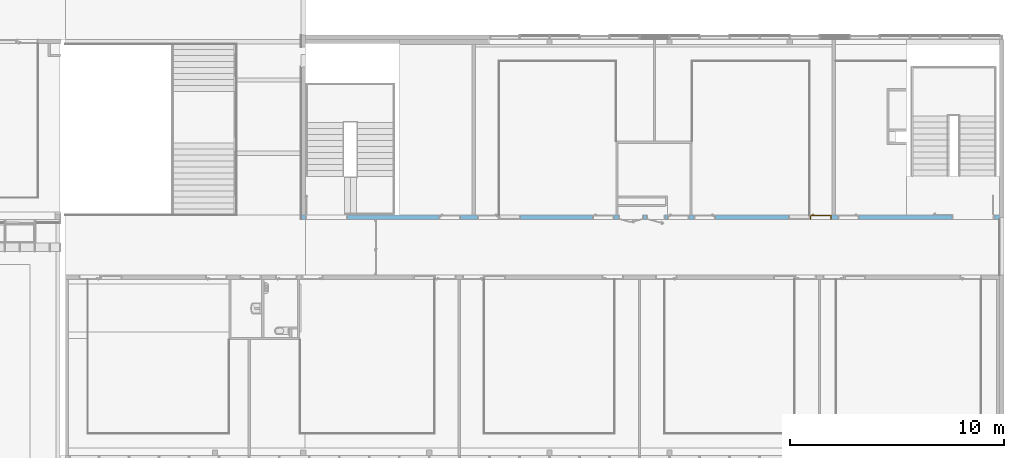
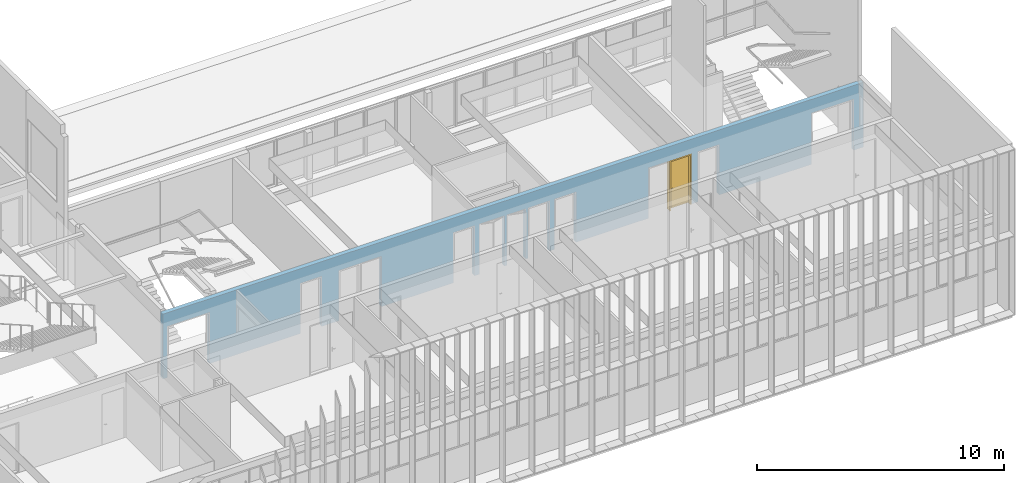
# One storey, part 81 of 106: 1 door, 13 openings, plus 1 element that does not belong to this part.
"""IFC2X3 building model written with IfcOpenShell, lengths in centimetres."""

from ifc_helpers import new_model, entity, si_unit, converted_unit, derived_unit, direction, frame, frame_2d, origin, place, context, subcontext, project, spatial, polyline, rectangle, extrude, clip, bounded_halfspace, faceted_brep, source, transform, mapped, material, material_list, layer, layer_set, layer_usage, type_object, type_shapes, element, fill, save


model = new_model("IFC2X3")

# Units and contexts
model_context = context("Model", 3, precision=0.001, world=origin(), true_north=direction((6.12303176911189e-17, 1.0)))
body_context = subcontext(model_context, "Body", "Model", "MODEL_VIEW")
ifc_project = project(units=[si_unit("LENGTHUNIT", "METRE", prefix="CENTI"), si_unit("AREAUNIT", "SQUARE_METRE"), si_unit("VOLUMEUNIT", "CUBIC_METRE"), converted_unit("PLANEANGLEUNIT", "DEGREE", entity("IfcRatioMeasure", 0.0174532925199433), si_unit("PLANEANGLEUNIT", "RADIAN"), dimensions=[0, 0, 0, 0, 0, 0, 0]), si_unit("MASSUNIT", "GRAM", prefix="KILO"), derived_unit("MASSDENSITYUNIT", [(si_unit("MASSUNIT", "GRAM", prefix="KILO"), 1), (si_unit("LENGTHUNIT", "METRE"), -3)]), si_unit("TIMEUNIT", "SECOND"), si_unit("FREQUENCYUNIT", "HERTZ"), si_unit("THERMODYNAMICTEMPERATUREUNIT", "DEGREE_CELSIUS"), derived_unit("THERMALTRANSMITTANCEUNIT", [(si_unit("MASSUNIT", "GRAM", prefix="KILO"), 1), (si_unit("THERMODYNAMICTEMPERATUREUNIT", "KELVIN"), -1), (si_unit("TIMEUNIT", "SECOND"), -3)]), derived_unit("VOLUMETRICFLOWRATEUNIT", [(si_unit("LENGTHUNIT", "METRE"), 3), (si_unit("TIMEUNIT", "SECOND"), -1)]), si_unit("ELECTRICCURRENTUNIT", "AMPERE"), si_unit("ELECTRICVOLTAGEUNIT", "VOLT"), si_unit("POWERUNIT", "WATT"), si_unit("FORCEUNIT", "NEWTON", prefix="KILO"), si_unit("ILLUMINANCEUNIT", "LUX"), si_unit("LUMINOUSFLUXUNIT", "LUMEN"), si_unit("LUMINOUSINTENSITYUNIT", "CANDELA"), derived_unit("USERDEFINED", [(si_unit("MASSUNIT", "GRAM", prefix="KILO"), -1), (si_unit("LENGTHUNIT", "METRE"), -2), (si_unit("TIMEUNIT", "SECOND"), 3), (si_unit("LUMINOUSFLUXUNIT", "LUMEN"), 1)]), derived_unit("LINEARVELOCITYUNIT", [(si_unit("LENGTHUNIT", "METRE"), 1), (si_unit("TIMEUNIT", "SECOND"), -1)]), si_unit("PRESSUREUNIT", "PASCAL"), derived_unit("USERDEFINED", [(si_unit("LENGTHUNIT", "METRE"), -2), (si_unit("MASSUNIT", "GRAM", prefix="KILO"), 1), (si_unit("TIMEUNIT", "SECOND"), -2)])], contexts=[model_context])

# Site, building, storey
site_placement = place(None, frame((-2781.94577612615, 7442.24238424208, 0.0)))
site = spatial("IfcSite", under=ifc_project, at=site_placement, Name="Default", CompositionType="ELEMENT")
building_placement = place(site_placement, origin())
building = spatial("IfcBuilding", under=site, at=building_placement, CompositionType="ELEMENT")
storey_placement = place(building_placement, frame((0.0, 0.0, 422.0)))
storey = spatial("IfcBuildingStorey", under=building, at=storey_placement, Name="Toiture - Cuisine", CompositionType="ELEMENT", Elevation=421.999999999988)

# Wall, openings, door
ifc_material_1 = material(Name="01 - Maçonnerie")
ifc_layer = layer(ifc_material_1, 20.0)
ifc_layer_set = layer_set([ifc_layer], Name="Mur de base:04 - Structure - béton - 20cm")
ifc_layer_usage = layer_usage(ifc_layer_set, "AXIS2", "NEGATIVE", 10.0)
wall_type = type_object("IfcWallType", Name="Mur de base:04 - Structure - béton - 20cm", PredefinedType="STANDARD", material=ifc_layer_set)
wall_placement = place(building_placement, frame((-3667.99987968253, -1920.07903364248, 422.0)))
wall = element("IfcWallStandardCase", 1, at=wall_placement, inside=storey, type_object=wall_type, material=ifc_layer_usage, Name="Mur de base:04 - Structure - béton - 20cm", ObjectType="Mur de base:04 - Structure - béton - 20cm", context=body_context, shape_type="Clipping", body=[
    clip(clip(extrude(rectangle(XDim=3277.99999684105, YDim=19.9999999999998, at=frame_2d((1638.99999842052, 6.21724893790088e-14), x_axis=(-1.0, 0.0))), origin(), (0.0, 0.0, 1.0), 321.0), bounded_halfspace(frame((0.0, -10.0, 321.0), z_axis=(0.0, 0.0, -1.0), x_axis=(0.0, 1.0, 0.0)), True, frame((0.0, -10.0, 321.0)), polyline([(0.0, 0.0), (20.0, 0.0), (20.0, 20.0), (0.0, 20.0), (0.0, 0.0)]))), bounded_halfspace(frame((458.699996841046, -10.0, 321.0), z_axis=(0.0, 0.0, -1.0), x_axis=(0.0, 1.0, 0.0)), True, frame((458.699996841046, -10.0, 321.0)), polyline([(0.0, 0.0), (2797.3, 0.0), (2799.29999999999, 0.0), (2799.29999999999, 10.0), (2799.29999999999, 20.0), (2034.0, 20.0), (2018.0, 20.0), (1914.0, 20.0), (1912.0, 20.0), (1363.8, 20.0), (1353.8, 20.0), (1249.8, 20.0), (1239.8, 20.0), (1149.8, 20.0), (1139.8, 20.0), (1019.8, 20.0), (1009.8, 20.0), (466.0, 20.0), (464.0, 20.0), (0.0, 20.0), (0.0, 0.0)]))),
])
opening_1_placement = place(wall_placement, frame((2502.69999684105, -10.0, 0.0)))
element("IfcOpeningElement", 2, at=opening_1_placement, cuts=wall, Name="Int. Simple:PP simple (0.93m x 2.50m):1", ObjectType="Opening", context=body_context, shape_type="SweptSolid", body=[
    extrude(rectangle(XDim=248.500000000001, YDim=99.9999999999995, at=frame_2d((124.250000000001, 49.9999999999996), x_axis=(1.0, 0.0))), frame((0.0, 0.0, 0.0), z_axis=(0.0, 1.0, 0.0), x_axis=(0.0, 0.0, 1.0)), (0.0, 0.0, 1.0), 20.0),
])
opening_2_placement = place(wall_placement, frame((2372.69999684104, -10.0, 0.0)))
opening_2 = element("IfcOpeningElement", 3, at=opening_2_placement, cuts=wall, Name="Int. Simple:PV (0.93m x 2.50m):1", ObjectType="Opening", context=body_context, shape_type="SweptSolid", body=[
    extrude(rectangle(XDim=248.500000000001, YDim=99.9999999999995, at=frame_2d((124.250000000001, 49.9999999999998), x_axis=(1.0, 0.0))), frame((0.0, 0.0, 0.0), z_axis=(0.0, 1.0, 0.0), x_axis=(0.0, 0.0, 1.0)), (0.0, 0.0, 1.0), 20.0),
])
opening_3_placement = place(wall_placement, frame((1832.49999684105, -10.0, 0.0)))
element("IfcOpeningElement", 4, at=opening_3_placement, cuts=wall, Name="Int. Simple:PV (0.93m x 2.50m):1", ObjectType="Opening", context=body_context, shape_type="SweptSolid", body=[
    extrude(rectangle(XDim=248.500000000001, YDim=99.9999999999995, at=frame_2d((124.250000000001, 49.9999999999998), x_axis=(1.0, 0.0))), frame((0.0, 0.0, 0.0), z_axis=(0.0, 1.0, 0.0), x_axis=(0.0, 0.0, 1.0)), (0.0, 0.0, 1.0), 20.0),
])
opening_4_placement = place(wall_placement, frame((1708.49999684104, -10.0, 0.0)))
element("IfcOpeningElement", 5, at=opening_4_placement, cuts=wall, Name="Int. Simple:PP simple (0.93m x 2.50m):1", ObjectType="Opening", context=body_context, shape_type="SweptSolid", body=[
    extrude(rectangle(XDim=248.500000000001, YDim=99.9999999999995, at=frame_2d((124.250000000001, 49.9999999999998), x_axis=(1.0, 0.0))), frame((0.0, 0.0, 0.0), z_axis=(0.0, 1.0, 0.0), x_axis=(0.0, 0.0, 1.0)), (0.0, 0.0, 1.0), 20.0),
])
opening_5_placement = place(wall_placement, frame((1358.49999684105, -10.0, 0.0)))
element("IfcOpeningElement", 6, at=opening_5_placement, cuts=wall, Name="Int. Simple:PV (0.93m x 2.50m):1", ObjectType="Opening", context=body_context, shape_type="SweptSolid", body=[
    extrude(rectangle(XDim=248.500000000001, YDim=99.9999999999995, at=frame_2d((124.250000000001, 49.9999999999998), x_axis=(1.0, 0.0))), frame((0.0, 0.0, 0.0), z_axis=(0.0, 1.0, 0.0), x_axis=(0.0, 0.0, 1.0)), (0.0, 0.0, 1.0), 20.0),
])
opening_6_placement = place(wall_placement, frame((822.699996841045, -10.0, 0.0)))
element("IfcOpeningElement", 7, at=opening_6_placement, cuts=wall, Name="Int. Simple:PV (0.93m x 2.50m):1", ObjectType="Opening", context=body_context, shape_type="SweptSolid", body=[
    extrude(rectangle(XDim=248.500000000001, YDim=99.9999999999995, at=frame_2d((124.250000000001, 49.9999999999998), x_axis=(1.0, 0.0))), frame((0.0, 0.0, 0.0), z_axis=(0.0, 1.0, 0.0), x_axis=(0.0, 0.0, 1.0)), (0.0, 0.0, 1.0), 20.0),
])
opening_7_placement = place(wall_placement, frame((642.699996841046, -10.0, 0.0)))
element("IfcOpeningElement", 8, at=opening_7_placement, cuts=wall, Name="Int. Simple:PP simple (0.93m x 2.50m):1", ObjectType="Opening", context=body_context, shape_type="SweptSolid", body=[
    extrude(rectangle(XDim=248.500000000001, YDim=99.9999999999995, at=frame_2d((124.250000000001, 49.9999999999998), x_axis=(1.0, 0.0))), frame((0.0, 0.0, 0.0), z_axis=(0.0, 1.0, 0.0), x_axis=(0.0, 0.0, 1.0)), (0.0, 0.0, 1.0), 20.0),
])
opening_8_placement = place(wall_placement, frame((2272.69999684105, -10.0, 0.0)))
element("IfcOpeningElement", 9, at=opening_8_placement, cuts=wall, Name="châssis intérieur vitré:châssis intérieur vitré (h=270) R+1:1", ObjectType="Opening", context=body_context, shape_type="SweptSolid", body=[
    extrude(rectangle(XDim=250.0, YDim=99.9999999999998, at=frame_2d((125.0, 49.9999999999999), x_axis=(1.0, 0.0))), frame((0.0, 0.0, 0.0), z_axis=(0.0, 1.0, 0.0), x_axis=(0.0, 0.0, 1.0)), (0.0, 0.0, 1.0), 20.0),
])
opening_9_placement = place(wall_placement, frame((922.699996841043, -10.0, 0.0)))
element("IfcOpeningElement", 10, at=opening_9_placement, cuts=wall, Name="châssis intérieur vitré:châssis intérieur vitré (h=270) R+1:1", ObjectType="Opening", context=body_context, shape_type="SweptSolid", body=[
    extrude(rectangle(XDim=250.0, YDim=99.9999999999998, at=frame_2d((125.0, 49.9999999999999), x_axis=(1.0, 0.0))), frame((0.0, 0.0, 0.0), z_axis=(0.0, 1.0, 0.0), x_axis=(0.0, 0.0, 1.0)), (0.0, 0.0, 1.0), 20.0),
])
opening_10_placement = place(wall_placement, frame((1697.0, 10.0, 0.0)))
element("IfcOpeningElement", 11, at=opening_10_placement, cuts=wall, Name="Int. Simple:PP Placard (0.80m x 2.50m):1", ObjectType="Opening", context=body_context, shape_type="SweptSolid", body=[
    extrude(rectangle(XDim=248.500000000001, YDim=86.9999999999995, at=frame_2d((124.250000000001, 43.4999999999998), x_axis=(1.0, 0.0))), frame((0.0, 0.0, 0.0), z_axis=(0.0, -1.0, 0.0), x_axis=(0.0, 0.0, 1.0)), (0.0, 0.0, 1.0), 20.0),
])
opening_11_placement = place(wall_placement, frame((1597.0, 10.0, 0.0)))
element("IfcOpeningElement", 12, at=opening_11_placement, cuts=wall, Name="Int. Double:PP Placard (1.10m x 2.50m):1", ObjectType="Opening", context=body_context, shape_type="SweptSolid", body=[
    extrude(rectangle(XDim=248.500000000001, YDim=117.0, at=frame_2d((124.250000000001, 58.5000000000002), x_axis=(1.0, 0.0))), frame((0.0, 0.0, 0.0), z_axis=(0.0, -1.0, 0.0), x_axis=(0.0, 0.0, 1.0)), (0.0, 0.0, 1.0), 20.0),
])
opening_12_placement = place(wall_placement, frame((3035.69999684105, -10.0, 0.0)))
element("IfcOpeningElement", 13, at=opening_12_placement, cuts=wall, Name="Int. Double:PP (1.90m x 2.50m):1", ObjectType="Opening", context=body_context, shape_type="SweptSolid", body=[
    extrude(rectangle(XDim=253.500000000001, YDim=197.0, at=frame_2d((126.750000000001, 98.5000000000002), x_axis=(1.0, 0.0))), frame((0.0, 0.0, 0.0), z_axis=(0.0, 1.0, 0.0), x_axis=(0.0, 0.0, 1.0)), (0.0, 0.0, 1.0), 20.0),
])
opening_13_placement = place(wall_placement, frame((20.0, -10.0, 0.0)))
element("IfcOpeningElement", 14, at=opening_13_placement, cuts=wall, Name="Int. Double:PP (1.90m x 2.50m):1", ObjectType="Opening", context=body_context, shape_type="SweptSolid", body=[
    extrude(rectangle(XDim=253.500000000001, YDim=197.0, at=frame_2d((126.750000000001, 98.5), x_axis=(1.0, 0.0))), frame((0.0, 0.0, 0.0), z_axis=(0.0, 1.0, 0.0), x_axis=(0.0, 0.0, 1.0)), (0.0, 0.0, 1.0), 20.0),
])
ifc_material_2 = material(Name="Finition Peinture - Blanc satiné")
ifc_material_3 = material(Name="Bois - Panneau de porte")
ifc_material_4 = material(Name="Bois - Cadre de porte")
ifc_material_list_1 = material_list([ifc_material_2, ifc_material_3, ifc_material_4])
ifc_material_list_2 = material_list([ifc_material_2, ifc_material_3, ifc_material_4])
door_style = type_object("IfcDoorStyle", Name="PV (0.93m x 2.50m)", ConstructionType="NOTDEFINED", OperationType="SINGLE_SWING_RIGHT", ParameterTakesPrecedence=False, Sizeable=False, material=ifc_material_list_2)
shared_shape = source(origin(), body_context, "Body", "Brep", [
    faceted_brep([(99.5000000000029, -0.500000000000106, 87.0), (99.5000000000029, -0.500000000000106, 108.0), (98.535276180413, -0.500000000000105, 108.399601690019), (97.5000000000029, -0.500000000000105, 108.535898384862), (96.4647238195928, -0.500000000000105, 108.399601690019), (95.500000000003, -0.500000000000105, 108.0), (95.5000000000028, -0.500000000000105, 87.0), (96.4647238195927, -0.500000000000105, 86.6003983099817), (97.5000000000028, -0.500000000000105, 86.464101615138), (98.5352761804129, -0.500000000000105, 86.6003983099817), (99.5000000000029, 0.0, 108.0), (99.5000000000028, 0.0, 87.0), (98.5352761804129, 0.0, 86.6003983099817), (97.5000000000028, 0.0, 86.464101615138), (96.4647238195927, 0.0, 86.6003983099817), (95.5000000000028, 0.0, 87.0), (95.5000000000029, 0.0, 108.0), (96.4647238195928, 0.0, 108.399601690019), (97.5000000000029, 0.0, 108.535898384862), (98.535276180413, 0.0, 108.399601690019)], [[[0, 1, 2, 3, 4, 5, 6, 7, 8, 9]], [[10, 11, 12, 13, 14, 15, 16, 17, 18, 19]], [[9, 12, 11, 0]], [[8, 13, 12, 9]], [[7, 14, 13, 8]], [[7, 6, 15, 14]], [[15, 6, 5, 16]], [[4, 17, 16, 5]], [[3, 18, 17, 4]], [[2, 19, 18, 3]], [[2, 1, 10, 19]], [[11, 10, 1, 0]]]),
    faceted_brep([(99.5000000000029, 4.0, 87.0), (99.5000000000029, 4.0, 108.0), (98.535276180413, 4.0, 108.399601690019), (97.5000000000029, 4.0, 108.535898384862), (96.4647238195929, 4.0, 108.399601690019), (95.500000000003, 4.0, 108.0), (95.5000000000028, 4.0, 87.0), (96.4647238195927, 4.0, 86.6003983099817), (97.5000000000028, 4.0, 86.464101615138), (98.5352761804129, 4.0, 86.6003983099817), (97.5000000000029, 4.49999999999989, 108.535898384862), (98.535276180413, 4.49999999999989, 108.399601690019), (99.5000000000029, 4.49999999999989, 108.0), (99.5000000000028, 4.49999999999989, 87.0), (98.5352761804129, 4.49999999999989, 86.6003983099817), (97.5000000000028, 4.49999999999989, 86.464101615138), (96.4647238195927, 4.49999999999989, 86.6003983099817), (95.5000000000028, 4.49999999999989, 87.0), (95.500000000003, 4.49999999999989, 108.0), (96.4647238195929, 4.49999999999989, 108.399601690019)], [[[0, 1, 2, 3, 4, 5, 6, 7, 8, 9]], [[10, 11, 12, 13, 14, 15, 16, 17, 18, 19]], [[4, 19, 18, 5]], [[3, 10, 19, 4]], [[2, 11, 10, 3]], [[2, 1, 12, 11]], [[13, 12, 1, 0]], [[9, 14, 13, 0]], [[8, 15, 14, 9]], [[7, 16, 15, 8]], [[7, 6, 17, 16]], [[17, 6, 5, 18]]]),
    faceted_brep([(97.2974701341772, -0.500000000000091, 100.778044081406), (97.7025298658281, -0.500000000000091, 100.778044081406), (98.1000000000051, -0.500000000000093, 100.699999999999), (98.100000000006, -0.500000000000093, 99.2999999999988), (97.7025298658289, -0.500000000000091, 99.221955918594), (97.297470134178, -0.500000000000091, 99.2219559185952), (96.9000000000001, -0.500000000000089, 99.3000000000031), (96.9000000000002, -0.500000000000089, 100.7), (97.7025298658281, -3.10045754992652, 100.778044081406), (98.1000000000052, -3.26509507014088, 100.7), (97.2974701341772, -2.93267631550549, 100.778044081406), (95.9298602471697, -4.30028620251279, 100.778044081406), (96.0976414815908, -4.70534593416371, 100.778044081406), (96.9000000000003, -2.76803879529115, 100.7), (96.9000000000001, -2.76803879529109, 99.3000000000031), (97.297470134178, -2.93267631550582, 99.2219559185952), (97.7025298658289, -3.10045754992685, 99.221955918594), (96.0976414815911, -4.70534593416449, 99.221955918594), (95.9298602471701, -4.30028620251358, 99.2219559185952), (98.100000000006, -3.26509507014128, 99.2999999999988), (96.2622790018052, -5.1028160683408, 100.7), (95.7652227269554, -3.90281606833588, 100.7), (95.7652227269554, -3.90281606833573, 99.3000000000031), (96.2622790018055, -5.10281606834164, 99.2999999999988), (87.4981359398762, -5.10281606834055, 100.7), (87.4981359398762, -4.70534593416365, 100.778044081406), (87.4981359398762, -4.30028620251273, 100.778044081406), (87.4981359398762, -3.90281606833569, 100.699999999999), (87.4981359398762, -3.90281606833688, 99.3000000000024), (87.4981359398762, -4.30028620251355, 99.2219559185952), (87.4981359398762, -4.70534593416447, 99.221955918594), (87.4981359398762, -5.10281606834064, 99.2999999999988), (91.7139980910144, -4.5028160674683, 100.78786867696), (92.2692302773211, -5.1028160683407, 100.7), (91.6316793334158, -3.9028160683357, 100.7), (91.631679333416, -3.90281606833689, 99.3000000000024), (91.7139981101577, -4.50281607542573, 99.2121313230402), (92.2692310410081, -5.10281606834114, 99.2999999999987)], [[[0, 1, 2, 3, 4, 5, 6, 7]], [[2, 1, 8, 9]], [[1, 0, 10, 11, 12, 8]], [[0, 7, 13, 10]], [[14, 13, 7, 6]], [[5, 15, 14, 6]], [[5, 4, 16, 17, 18, 15]], [[3, 19, 16, 4]], [[9, 19, 3, 2]], [[9, 8, 12, 20]], [[10, 13, 21, 11]], [[22, 21, 13, 14]], [[14, 15, 18, 22]], [[16, 19, 23, 17]], [[20, 23, 19, 9]], [[24, 25, 26, 27, 28, 29, 30, 31]], [[32, 25, 33]], [[33, 25, 24]], [[33, 20, 12]], [[11, 34, 32]], [[34, 11, 21]], [[27, 26, 34]], [[32, 26, 25]], [[32, 34, 26]], [[32, 33, 12]], [[11, 32, 12]], [[21, 22, 35, 28, 27, 34]], [[36, 29, 35]], [[30, 36, 37]], [[18, 35, 22]], [[29, 28, 35]], [[30, 37, 31]], [[37, 17, 23]], [[36, 17, 37]], [[36, 18, 17]], [[36, 35, 18]], [[29, 36, 30]], [[23, 20, 33, 24, 31, 37]]]),
    faceted_brep([(97.2974701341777, 4.49999999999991, 99.2219559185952), (97.7025298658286, 4.49999999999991, 99.221955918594), (98.1000000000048, 4.4999999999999, 99.2999999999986), (98.1000000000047, 4.4999999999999, 100.7), (97.7025298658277, 4.49999999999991, 100.778044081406), (97.2974701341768, 4.49999999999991, 100.778044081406), (96.8999999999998, 4.49999999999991, 100.7), (96.900000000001, 4.49999999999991, 99.3000000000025), (96.8999999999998, 6.7485204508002, 100.7), (96.8999999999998, 6.74852045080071, 99.3000000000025), (97.2974701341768, 6.91315797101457, 100.778044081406), (97.7025298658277, 7.0809392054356, 100.778044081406), (96.0838906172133, 8.69957845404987, 100.778044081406), (95.9161093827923, 8.29451872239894, 100.778044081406), (98.1000000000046, 7.24557672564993, 100.7), (98.1000000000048, 7.24557672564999, 99.2999999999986), (97.7025298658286, 7.08093920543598, 99.221955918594), (97.2974701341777, 6.91315797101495, 99.2219559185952), (95.9161093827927, 8.29451872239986, 99.2219559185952), (96.0838906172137, 8.69957845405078, 99.221955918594), (95.751471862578, 7.89704858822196, 100.7), (95.7514718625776, 7.89704858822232, 99.3000000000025), (96.2485281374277, 9.09704858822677, 100.7), (96.2485281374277, 9.09704858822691, 99.2999999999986), (87.4954216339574, 8.29451872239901, 100.778044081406), (87.4954216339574, 8.69957845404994, 100.778044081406), (87.4954216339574, 9.09704858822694, 100.7), (87.4954216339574, 9.09704858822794, 99.2999999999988), (87.4954216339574, 8.6995784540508, 99.221955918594), (87.4954216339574, 8.29451872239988, 99.2219559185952), (87.4954216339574, 7.89704858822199, 99.3000000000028), (87.4954216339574, 7.89704858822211, 100.7), (91.6234467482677, 7.89704858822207, 100.7), (91.6234479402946, 7.89704858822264, 99.3000000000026), (91.7057655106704, 8.49704858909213, 100.78786867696), (92.255479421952, 9.09704858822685, 100.7), (92.2554795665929, 9.09704858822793, 99.2999999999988), (91.7057654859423, 8.49704858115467, 99.2121313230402)], [[[0, 1, 2, 3, 4, 5, 6, 7]], [[8, 9, 7, 6]], [[5, 10, 8, 6]], [[5, 4, 11, 12, 13, 10]], [[3, 14, 11, 4]], [[14, 3, 2, 15]], [[2, 1, 16, 15]], [[1, 0, 17, 18, 19, 16]], [[0, 7, 9, 17]], [[20, 21, 9, 8]], [[8, 10, 13, 20]], [[14, 22, 12, 11]], [[23, 22, 14, 15]], [[15, 16, 19, 23]], [[17, 9, 21, 18]], [[24, 25, 26, 27, 28, 29, 30, 31]], [[21, 20, 32, 31, 30, 33]], [[34, 24, 32]], [[25, 34, 35]], [[13, 32, 20]], [[24, 31, 32]], [[25, 35, 26]], [[35, 12, 22]], [[34, 12, 35]], [[34, 13, 12]], [[34, 32, 13]], [[24, 34, 25]], [[22, 23, 36, 27, 26, 35]], [[37, 28, 36]], [[36, 28, 27]], [[36, 23, 19]], [[18, 33, 37]], [[33, 18, 21]], [[30, 29, 33]], [[37, 29, 28]], [[37, 33, 29]], [[37, 36, 19]], [[18, 37, 19]]]),
    faceted_brep([(103.500000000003, 4.0, 245.0), (103.500000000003, 4.0, 0.0), (10.5000000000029, 4.0, 0.0), (10.5000000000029, 4.0, 245.0), (103.500000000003, 0.0, 245.0), (10.5000000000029, 0.0, 245.0), (10.5000000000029, 0.0, 0.0), (103.500000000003, 0.0, 0.0)], [[[0, 1, 2, 3]], [[4, 5, 6, 7]], [[3, 5, 4, 0]], [[2, 6, 5, 3]], [[1, 7, 6, 2]], [[0, 4, 7, 1]]]),
    faceted_brep([(107.0, 20.0, 0.0), (107.0, 0.0, 0.0), (108.500000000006, 0.0, 0.0), (108.500000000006, -0.500000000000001, 0.0), (103.500000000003, -0.500000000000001, 0.0), (103.500000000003, 4.0, 0.0), (102.0, 4.0, 0.0), (102.0, 20.5000000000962, 0.0), (108.500000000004, 20.5000000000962, 0.0), (108.500000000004, 20.0, 0.0), (108.500000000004, 20.0, 250.0), (5.50000000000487, 20.0, 250.0), (5.50000000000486, 20.0, 0.0), (7.0, 20.0, 0.0), (7.0, 20.0, 248.500000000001), (107.0, 20.0, 248.500000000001), (108.500000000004, 20.5000000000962, 250.0), (102.0, 20.5000000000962, 243.5), (12.0, 20.5000000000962, 243.5), (12.0, 20.5000000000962, 0.0), (5.50000000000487, 20.5000000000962, 0.0), (5.50000000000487, 20.5000000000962, 250.0), (102.0, 4.0, 243.5), (103.500000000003, 4.0, 245.0), (10.5000000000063, 4.0, 245.0), (10.5000000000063, 4.0, 0.0), (12.0, 4.0, 0.0), (12.0, 4.0, 243.5), (103.500000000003, -0.500000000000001, 245.0), (108.500000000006, -0.500000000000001, 250.0), (5.5000000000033, -0.500000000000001, 250.0), (5.50000000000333, -0.500000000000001, 0.0), (10.5000000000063, -0.500000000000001, 0.0), (10.5000000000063, -0.500000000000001, 245.0), (108.500000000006, 0.0, 250.0), (107.0, 0.0, 248.500000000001), (7.0, 0.0, 248.500000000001), (7.0, 0.0, 0.0), (5.5000000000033, 0.0, 0.0), (5.50000000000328, 0.0, 250.0)], [[[0, 1, 2, 3, 4, 5, 6, 7, 8, 9]], [[9, 10, 11, 12, 13, 14, 15, 0]], [[8, 16, 10, 9]], [[7, 17, 18, 19, 20, 21, 16, 8]], [[7, 6, 22, 17]], [[5, 23, 24, 25, 26, 27, 22, 6]], [[5, 4, 28, 23]], [[3, 29, 30, 31, 32, 33, 28, 4]], [[2, 34, 29, 3]], [[1, 35, 36, 37, 38, 39, 34, 2]], [[0, 15, 35, 1]], [[14, 13, 37, 36]], [[13, 12, 20, 19, 26, 25, 32, 31, 38, 37]], [[21, 20, 12, 11]], [[27, 26, 19, 18]], [[33, 32, 25, 24]], [[39, 38, 31, 30]], [[16, 21, 11, 10]], [[22, 27, 18, 17]], [[28, 33, 24, 23]], [[34, 39, 30, 29]], [[15, 14, 36, 35]]]),
])
type_shapes(door_style, [shared_shape])
door_placement = place(opening_2_placement, frame((107.0, 20.0, 0.0), z_axis=(0.0, 0.0, 1.0), x_axis=(-1.0, 0.0, 0.0)))
door = element("IfcDoor", 15, at=door_placement, inside=storey, type_object=door_style, material=ifc_material_list_1, Name="Int. Simple:PV (0.93m x 2.50m)", ObjectType="Int. Simple:PV (0.93m x 2.50m)", OverallHeight=248.500000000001, OverallWidth=99.9999999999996, context=body_context, shape_type="MappedRepresentation", body=[
    mapped(shared_shape, transform((0.0, 0.0, 0.0), scale=1.0)),
])
fill(opening_2, door)

save(model, "model.ifc")
